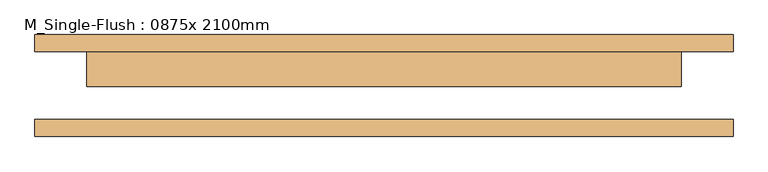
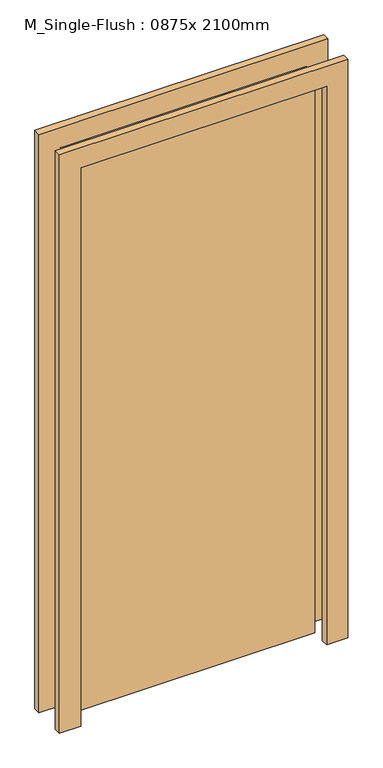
"""IFC4 building model written with IfcOpenShell, lengths in millimetres: door geometry, M_Single-Flush : 0875x 2100mm."""

from ifc_helpers import new_model, si_unit, frame, origin, origin_with_axes, place, context, project, spatial, polyline, outline, extrude, source, transform, mapped, element, save


def m_single_flush_0875x_2100mm_6ab5fb2a(model_context):
    return source(origin(), model_context, "Body", "SweptSolid", [
        extrude(outline(polyline([(2176.0, -513.5), (0.0, -513.5), (0.0, -437.5), (2100.0, -437.5), (2100.0, 437.5), (0.0, 437.5), (0.0, 513.5), (2176.0, 513.5), (2176.0, -513.5)])), frame((0.0, 50.0, 0.0), z_axis=(0.0, 1.0, 0.0), x_axis=(0.0, 0.0, 1.0)), (0.0, 0.0, 1.0), 25.0),
        extrude(outline(polyline([(2176.0, 513.5), (2176.0, -513.5), (0.0, -513.5), (0.0, -437.5), (2100.0, -437.5), (2100.0, 437.5), (0.0, 437.5), (0.0, 513.5), (2176.0, 513.5)])), frame((0.0, -75.0, 0.0), z_axis=(0.0, 1.0, 0.0), x_axis=(0.0, 0.0, 1.0)), (0.0, 0.0, 1.0), 25.0),
        extrude(outline(polyline([(437.5, -1.0), (-437.5, -1.0), (-437.5, 50.0), (437.5, 50.0), (437.5, -1.0)])), origin_with_axes(), (0.0, 0.0, 1.0), 2100.0),
    ])


if __name__ == "__main__":
    model = new_model("IFC4")
    model_context = context("Model", 3, world=origin())
    ifc_project = project(units=[si_unit("LENGTHUNIT", "METRE", prefix="MILLI")], contexts=[model_context])
    site = spatial("IfcSite", under=ifc_project)
    building = spatial("IfcBuilding", under=site)
    placement = place(None, origin())
    m_single_flush_0875x_2100mm_shape = m_single_flush_0875x_2100mm_6ab5fb2a(model_context)
    element("IfcDoor", 1, ObjectType="M_Single-Flush : 0875x 2100mm", at=placement, inside=building, context=model_context, shape_type="MappedRepresentation", body=[
        mapped(m_single_flush_0875x_2100mm_shape, transform((0.0, 0.0, 0.0), x_axis=(1.0, 0.0, 0.0), y_axis=(0.0, 1.0, 0.0), z_axis=(0.0, 0.0, 1.0))),
    ])
    save(model, "model.ifc")
